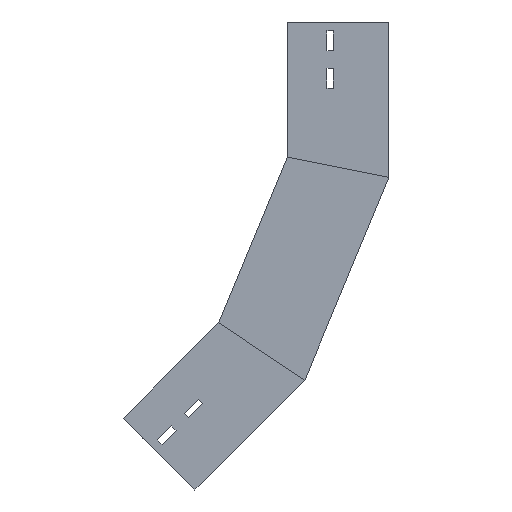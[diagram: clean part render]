
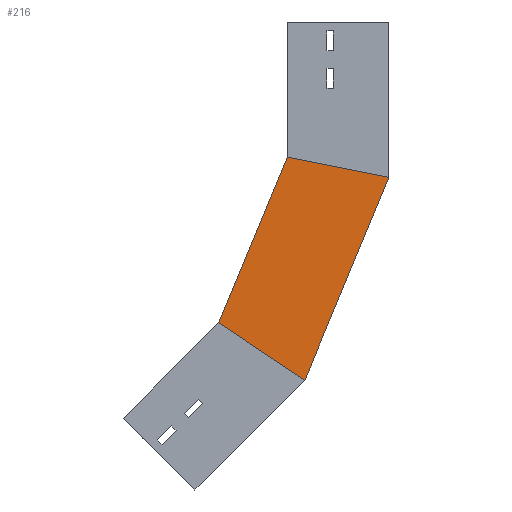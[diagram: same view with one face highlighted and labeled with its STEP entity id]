
A CAD part, left-side view. The second image highlights one B-rep face of the part: STEP entity #216.
In plain terms, the highlighted planar face has unit normal (-1, 0, 0) as drawn and (1, 0, 0) by its records, which use the part's own axes.
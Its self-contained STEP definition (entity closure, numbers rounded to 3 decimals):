
#57 = EDGE_CURVE ( 'NONE', #1147, #1154, #263, .T. ) ;
#98 = CARTESIAN_POINT ( 'NONE',  ( 0., 0., -172.1 ) ) ;
#125 = LINE ( 'NONE', #798, #836 ) ;
#132 = PLANE ( 'NONE',  #374 ) ;
#160 = VECTOR ( 'NONE', #1221, 1000. ) ;
#211 = VECTOR ( 'NONE', #1252, 1000. ) ;
#216 = ADVANCED_FACE ( 'NONE', ( #1059 ), #132, .F. ) ;
#223 = VERTEX_POINT ( 'NONE', #361 ) ;
#263 = LINE ( 'NONE', #709, #211 ) ;
#306 = EDGE_LOOP ( 'NONE', ( #1379, #1089, #524, #1444 ) ) ;
#316 = CARTESIAN_POINT ( 'NONE',  ( 0., 112.5, -149.722 ) ) ;
#361 = CARTESIAN_POINT ( 'NONE',  ( 0., 93.03, -396.695 ) ) ;
#374 = AXIS2_PLACEMENT_3D ( 'NONE', #930, #1409, #1051 ) ;
#455 = DIRECTION ( 'NONE',  ( 0., -0.831, -0.556 ) ) ;
#457 = VERTEX_POINT ( 'NONE', #98 ) ;
#524 = ORIENTED_EDGE ( 'NONE', *, *, #886, .T. ) ;
#612 = EDGE_CURVE ( 'NONE', #1154, #223, #125, .T. ) ;
#709 = CARTESIAN_POINT ( 'NONE',  ( 0., 103.936, -129.048 ) ) ;
#741 = CARTESIAN_POINT ( 'NONE',  ( 0., 188.403, -332.969 ) ) ;
#750 = LINE ( 'NONE', #988, #160 ) ;
#798 = CARTESIAN_POINT ( 'NONE',  ( 0., 132.464, -370.346 ) ) ;
#811 = LINE ( 'NONE', #1293, #1128 ) ;
#836 = VECTOR ( 'NONE', #455, 1000. ) ;
#886 = EDGE_CURVE ( 'NONE', #457, #223, #750, .T. ) ;
#930 = CARTESIAN_POINT ( 'NONE',  ( 0., 0., -172.1 ) ) ;
#988 = CARTESIAN_POINT ( 'NONE',  ( 0., 0., -172.1 ) ) ;
#997 = EDGE_CURVE ( 'NONE', #1147, #457, #811, .T. ) ;
#1051 = DIRECTION ( 'NONE',  ( 0., 0., 1. ) ) ;
#1059 = FACE_OUTER_BOUND ( 'NONE', #306, .T. ) ;
#1089 = ORIENTED_EDGE ( 'NONE', *, *, #997, .T. ) ;
#1128 = VECTOR ( 'NONE', #1408, 1000. ) ;
#1147 = VERTEX_POINT ( 'NONE', #316 ) ;
#1154 = VERTEX_POINT ( 'NONE', #741 ) ;
#1221 = DIRECTION ( 'NONE',  ( 0., 0.383, -0.924 ) ) ;
#1252 = DIRECTION ( 'NONE',  ( 0., 0.383, -0.924 ) ) ;
#1293 = CARTESIAN_POINT ( 'NONE',  ( 0., 32.93, -165.55 ) ) ;
#1379 = ORIENTED_EDGE ( 'NONE', *, *, #57, .F. ) ;
#1408 = DIRECTION ( 'NONE',  ( 0., -0.981, -0.195 ) ) ;
#1409 = DIRECTION ( 'NONE',  ( -1., 0., 0. ) ) ;
#1444 = ORIENTED_EDGE ( 'NONE', *, *, #612, .F. ) ;
